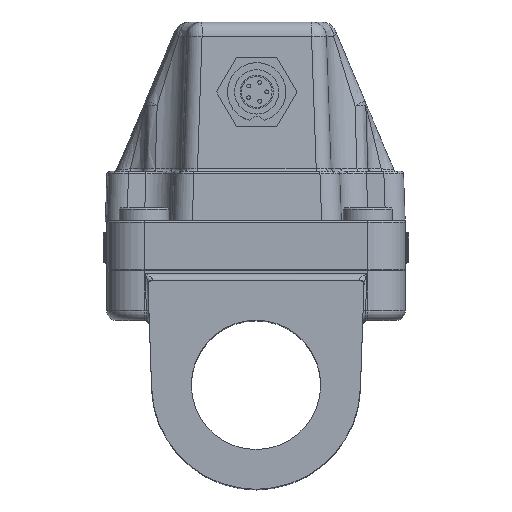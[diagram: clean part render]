
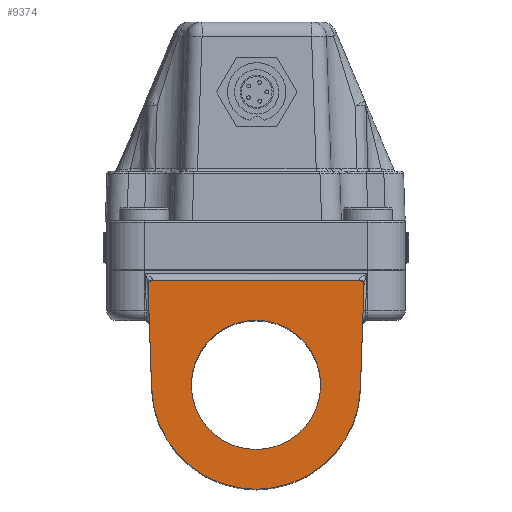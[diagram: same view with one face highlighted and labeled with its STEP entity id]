
A CAD part, top view. The second image highlights one B-rep face of the part: STEP entity #9374.
In plain terms, the highlighted planar face has unit normal (0, 0, 1).
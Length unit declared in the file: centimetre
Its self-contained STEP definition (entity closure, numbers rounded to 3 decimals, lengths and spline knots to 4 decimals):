
#1613=VECTOR('',#12421,1.);
#1616=VECTOR('',#12427,1.);
#1617=VECTOR('',#12430,1.);
#2067=LINE('',#40870,#1613);
#2070=LINE('',#40878,#1616);
#2071=LINE('',#40882,#1617);
#2261=PLANE('',#10315);
#2932=VERTEX_POINT('',#40675);
#2933=VERTEX_POINT('',#40676);
#2939=VERTEX_POINT('',#40871);
#2941=VERTEX_POINT('',#40877);
#2942=VERTEX_POINT('',#40879);
#2943=VERTEX_POINT('',#40881);
#2944=VERTEX_POINT('',#40883);
#3514=CIRCLE('',#10310,0.1);
#3517=CIRCLE('',#10316,1.3);
#3518=CIRCLE('',#10317,2.1);
#3519=CIRCLE('',#10318,0.1);
#4660=EDGE_CURVE('',#2932,#2933,#3514,.T.);
#4669=EDGE_CURVE('',#2939,#2933,#2067,.T.);
#4672=EDGE_CURVE('',#2941,#2941,#3517,.T.);
#4673=EDGE_CURVE('',#2932,#2942,#2070,.T.);
#4674=EDGE_CURVE('',#2943,#2942,#3518,.T.);
#4675=EDGE_CURVE('',#2943,#2944,#2071,.T.);
#4676=EDGE_CURVE('',#2939,#2944,#3519,.T.);
#7001=ORIENTED_EDGE('',*,*,#4672,.T.);
#7002=ORIENTED_EDGE('',*,*,#4660,.F.);
#7003=ORIENTED_EDGE('',*,*,#4673,.T.);
#7004=ORIENTED_EDGE('',*,*,#4674,.F.);
#7005=ORIENTED_EDGE('',*,*,#4675,.T.);
#7006=ORIENTED_EDGE('',*,*,#4676,.F.);
#7007=ORIENTED_EDGE('',*,*,#4669,.T.);
#8018=EDGE_LOOP('',(#7001));
#8019=EDGE_LOOP('',(#7002,#7003,#7004,#7005,#7006,#7007));
#8728=FACE_BOUND('',#8018,.T.);
#8729=FACE_BOUND('',#8019,.T.);
#9374=ADVANCED_FACE('',(#8728,#8729),#2261,.T.);
#10310=AXIS2_PLACEMENT_3D('',#40674,#12409,#12410);
#10315=AXIS2_PLACEMENT_3D('',#40875,#12424,$);
#10316=AXIS2_PLACEMENT_3D('',#40876,#12425,#12426);
#10317=AXIS2_PLACEMENT_3D('',#40880,#12428,#12429);
#10318=AXIS2_PLACEMENT_3D('',#40884,#12431,#12432);
#12409=DIRECTION('',(0.,0.,-1.));
#12410=DIRECTION('',(-0.072,0.069,0.));
#12421=DIRECTION('',(-1.,0.,0.));
#12424=DIRECTION('',(0.,0.,1.));
#12425=DIRECTION('',(0.,0.,-1.));
#12426=DIRECTION('',(-1.3,0.,0.));
#12427=DIRECTION('',(0.035,-0.999,0.));
#12428=DIRECTION('',(0.,0.,-1.));
#12429=DIRECTION('',(-2.1,0.,0.));
#12430=DIRECTION('',(0.035,0.999,0.));
#12431=DIRECTION('',(0.,0.,-1.));
#12432=DIRECTION('',(0.072,0.069,0.));
#40674=CARTESIAN_POINT('',(-2.6049,-6.8198,6.7885));
#40675=CARTESIAN_POINT('',(-2.7048,-6.8233,6.7885));
#40676=CARTESIAN_POINT('',(-2.6049,-6.7198,6.7885));
#40870=CARTESIAN_POINT('',(1.6408,-6.7198,6.7885));
#40871=CARTESIAN_POINT('',(1.5372,-6.7198,6.7885));
#40875=CARTESIAN_POINT('',(-0.5338,-8.4536,6.7885));
#40876=CARTESIAN_POINT('',(-0.5338,-8.8198,6.7885));
#40877=CARTESIAN_POINT('',(0.7662,-8.8198,6.7885));
#40878=CARTESIAN_POINT('',(-2.7085,-6.7198,6.7885));
#40879=CARTESIAN_POINT('',(-2.6326,-8.8931,6.7885));
#40880=CARTESIAN_POINT('',(-0.5338,-8.8198,6.7885));
#40881=CARTESIAN_POINT('',(1.5649,-8.8931,6.7885));
#40882=CARTESIAN_POINT('',(1.5649,-8.8931,6.7885));
#40883=CARTESIAN_POINT('',(1.6372,-6.8233,6.7885));
#40884=CARTESIAN_POINT('',(1.5372,-6.8198,6.7885));
